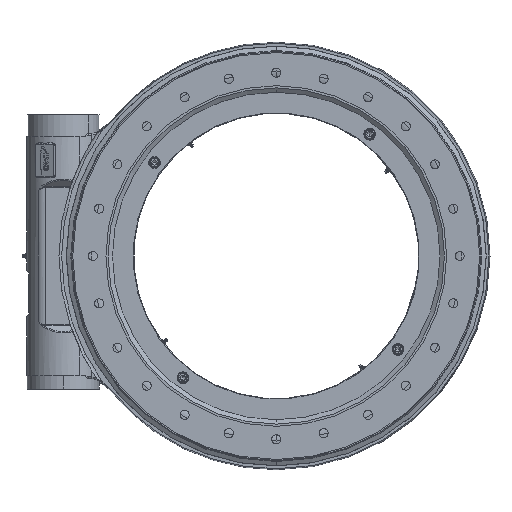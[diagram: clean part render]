
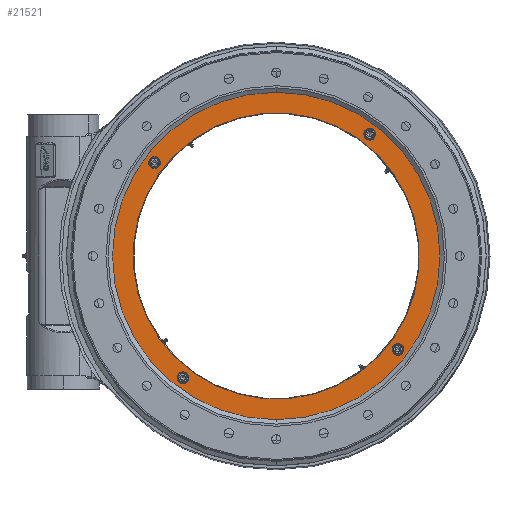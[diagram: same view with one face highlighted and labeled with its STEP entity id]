
A CAD part, front view. The second image highlights one B-rep face of the part: STEP entity #21521.
In plain terms, the highlighted planar face has unit normal (0, -1, 0).
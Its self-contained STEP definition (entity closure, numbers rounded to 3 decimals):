
#9094 = CARTESIAN_POINT ( 'NONE',  ( 224.122, -10., -171.975 ) ) ;
#9095 = DIRECTION ( 'NONE',  ( 0., -1., 0. ) ) ;
#9107 = DIRECTION ( 'NONE',  ( 0.707, 0., -0.707 ) ) ;
#9229 = CARTESIAN_POINT ( 'NONE',  ( -224.122, -10., 171.975 ) ) ;
#9235 = DIRECTION ( 'NONE',  ( 0., -1., 0. ) ) ;
#9236 = DIRECTION ( 'NONE',  ( 0.707, 0., -0.707 ) ) ;
#9340 = CARTESIAN_POINT ( 'NONE',  ( -171.975, -10., -224.122 ) ) ;
#9341 = DIRECTION ( 'NONE',  ( 0., -1., 0. ) ) ;
#9342 = DIRECTION ( 'NONE',  ( 0.707, 0., -0.707 ) ) ;
#9360 = DIRECTION ( 'NONE',  ( 0.707, 0., -0.707 ) ) ;
#9361 = DIRECTION ( 'NONE',  ( 0., -1., 0. ) ) ;
#9369 = CARTESIAN_POINT ( 'NONE',  ( 171.975, -10., 224.122 ) ) ;
#9850 = ORIENTED_EDGE ( 'NONE', *, *, #29216, .T. ) ;
#10680 = DIRECTION ( 'NONE',  ( 0., -1., 0. ) ) ;
#10771 = CARTESIAN_POINT ( 'NONE',  ( -220.264, -10., -220.264 ) ) ;
#10866 = DIRECTION ( 'NONE',  ( 0.707, 0., -0.707 ) ) ;
#11855 = PLANE ( 'NONE',  #37776 ) ;
#13044 = ORIENTED_EDGE ( 'NONE', *, *, #31718, .F. ) ;
#13054 = ORIENTED_EDGE ( 'NONE', *, *, #29161, .F. ) ;
#13060 = ORIENTED_EDGE ( 'NONE', *, *, #31801, .F. ) ;
#13069 = ORIENTED_EDGE ( 'NONE', *, *, #31583, .T. ) ;
#13709 = ORIENTED_EDGE ( 'NONE', *, *, #31760, .F. ) ;
#13726 = ORIENTED_EDGE ( 'NONE', *, *, #29223, .F. ) ;
#13728 = ORIENTED_EDGE ( 'NONE', *, *, #29220, .F. ) ;
#13752 = ORIENTED_EDGE ( 'NONE', *, *, #29178, .F. ) ;
#13753 = ORIENTED_EDGE ( 'NONE', *, *, #29228, .T. ) ;
#13780 = ORIENTED_EDGE ( 'NONE', *, *, #29226, .T. ) ;
#13783 = ORIENTED_EDGE ( 'NONE', *, *, #31677, .F. ) ;
#15569 = FACE_BOUND ( 'NONE', #31806, .T. ) ;
#15571 = FACE_OUTER_BOUND ( 'NONE', #31871, .T. ) ;
#15576 = FACE_BOUND ( 'NONE', #31729, .T. ) ;
#15577 = FACE_BOUND ( 'NONE', #31808, .T. ) ;
#15579 = FACE_BOUND ( 'NONE', #31845, .T. ) ;
#15581 = FACE_BOUND ( 'NONE', #31848, .T. ) ;
#17294 = DIRECTION ( 'NONE',  ( 0.707, 0., -0.707 ) ) ;
#17297 = DIRECTION ( 'NONE',  ( 0., -1., 0. ) ) ;
#17303 = CARTESIAN_POINT ( 'NONE',  ( -224.122, -10., 171.975 ) ) ;
#18904 = CARTESIAN_POINT ( 'NONE',  ( 219.557, -10., -219.557 ) ) ;
#18929 = CARTESIAN_POINT ( 'NONE',  ( -219.557, -10., 219.557 ) ) ;
#19325 = CARTESIAN_POINT ( 'NONE',  ( 216.521, -10., -164.374 ) ) ;
#19356 = CARTESIAN_POINT ( 'NONE',  ( 231.724, -10., -179.577 ) ) ;
#19476 = CARTESIAN_POINT ( 'NONE',  ( -216.521, -10., 164.374 ) ) ;
#19478 = CARTESIAN_POINT ( 'NONE',  ( -231.724, -10., 179.577 ) ) ;
#19479 = CARTESIAN_POINT ( 'NONE',  ( 164.374, -10., 231.724 ) ) ;
#19481 = CARTESIAN_POINT ( 'NONE',  ( 179.577, -10., 216.521 ) ) ;
#19485 = CARTESIAN_POINT ( 'NONE',  ( -186.323, -10., 186.323 ) ) ;
#19486 = CARTESIAN_POINT ( 'NONE',  ( 186.323, -10., -186.323 ) ) ;
#19501 = CARTESIAN_POINT ( 'NONE',  ( -179.577, -10., -216.521 ) ) ;
#19506 = CARTESIAN_POINT ( 'NONE',  ( -164.374, -10., -231.724 ) ) ;
#19572 = AXIS2_PLACEMENT_3D ( 'NONE', #17303, #17297, #17294 ) ;
#19596 = AXIS2_PLACEMENT_3D ( 'NONE', #32580, #32583, #32582 ) ;
#19646 = AXIS2_PLACEMENT_3D ( 'NONE', #32822, #32672, #32673 ) ;
#19649 = AXIS2_PLACEMENT_3D ( 'NONE', #32847, #32844, #32843 ) ;
#19659 = AXIS2_PLACEMENT_3D ( 'NONE', #32823, #32308, #32305 ) ;
#19661 = AXIS2_PLACEMENT_3D ( 'NONE', #32277, #32275, #32282 ) ;
#19664 = AXIS2_PLACEMENT_3D ( 'NONE', #32289, #32290, #32286 ) ;
#20223 = AXIS2_PLACEMENT_3D ( 'NONE', #9229, #9235, #9236 ) ;
#20270 = AXIS2_PLACEMENT_3D ( 'NONE', #9340, #9341, #9342 ) ;
#20306 = AXIS2_PLACEMENT_3D ( 'NONE', #9369, #9361, #9360 ) ;
#20359 = AXIS2_PLACEMENT_3D ( 'NONE', #23767, #23769, #23775 ) ;
#20409 = AXIS2_PLACEMENT_3D ( 'NONE', #9094, #9095, #9107 ) ;
#21521 = ADVANCED_FACE ( 'NONE', ( #15569, #15577, #15579, #15581, #15571, #15576 ), #11855, .T. ) ;
#22035 = CIRCLE ( 'NONE', #19572, 10.75 ) ;
#22053 = CIRCLE ( 'NONE', #19596, 10.75 ) ;
#22094 = CIRCLE ( 'NONE', #19649, 263.5 ) ;
#22098 = CIRCLE ( 'NONE', #19646, 10.75 ) ;
#22104 = CIRCLE ( 'NONE', #19659, 10.75 ) ;
#22109 = CIRCLE ( 'NONE', #19661, 310.5 ) ;
#22113 = CIRCLE ( 'NONE', #19664, 310.5 ) ;
#23767 = CARTESIAN_POINT ( 'NONE',  ( 0., -10., 0. ) ) ;
#23769 = DIRECTION ( 'NONE',  ( 0., 1., 0. ) ) ;
#23775 = DIRECTION ( 'NONE',  ( 0.707, 0., -0.707 ) ) ;
#25742 = VERTEX_POINT ( 'NONE', #18904 ) ;
#25746 = VERTEX_POINT ( 'NONE', #18929 ) ;
#26109 = VERTEX_POINT ( 'NONE', #19325 ) ;
#26140 = VERTEX_POINT ( 'NONE', #19356 ) ;
#26260 = VERTEX_POINT ( 'NONE', #19476 ) ;
#26262 = VERTEX_POINT ( 'NONE', #19478 ) ;
#26263 = VERTEX_POINT ( 'NONE', #19479 ) ;
#26265 = VERTEX_POINT ( 'NONE', #19481 ) ;
#26269 = VERTEX_POINT ( 'NONE', #19485 ) ;
#26270 = VERTEX_POINT ( 'NONE', #19486 ) ;
#26284 = VERTEX_POINT ( 'NONE', #19501 ) ;
#26287 = VERTEX_POINT ( 'NONE', #19506 ) ;
#29161 = EDGE_CURVE ( 'NONE', #26260, #26262, #22035, .T. ) ;
#29178 = EDGE_CURVE ( 'NONE', #26140, #26109, #22053, .T. ) ;
#29216 = EDGE_CURVE ( 'NONE', #26269, #26270, #22094, .T. ) ;
#29220 = EDGE_CURVE ( 'NONE', #26265, #26263, #22098, .T. ) ;
#29223 = EDGE_CURVE ( 'NONE', #26287, #26284, #22104, .T. ) ;
#29226 = EDGE_CURVE ( 'NONE', #25742, #25746, #22113, .T. ) ;
#29228 = EDGE_CURVE ( 'NONE', #25746, #25742, #22109, .T. ) ;
#31583 = EDGE_CURVE ( 'NONE', #26270, #26269, #36217, .T. ) ;
#31677 = EDGE_CURVE ( 'NONE', #26109, #26140, #36096, .T. ) ;
#31718 = EDGE_CURVE ( 'NONE', #26262, #26260, #36685, .T. ) ;
#31729 = EDGE_LOOP ( 'NONE', ( #13069, #9850 ) ) ;
#31760 = EDGE_CURVE ( 'NONE', #26284, #26287, #37328, .T. ) ;
#31801 = EDGE_CURVE ( 'NONE', #26263, #26265, #36880, .T. ) ;
#31806 = EDGE_LOOP ( 'NONE', ( #13054, #13044 ) ) ;
#31808 = EDGE_LOOP ( 'NONE', ( #13728, #13060 ) ) ;
#31845 = EDGE_LOOP ( 'NONE', ( #13752, #13783 ) ) ;
#31848 = EDGE_LOOP ( 'NONE', ( #13726, #13709 ) ) ;
#31871 = EDGE_LOOP ( 'NONE', ( #13780, #13753 ) ) ;
#32275 = DIRECTION ( 'NONE',  ( 0., -1., 0. ) ) ;
#32277 = CARTESIAN_POINT ( 'NONE',  ( 0., -10., 0. ) ) ;
#32282 = DIRECTION ( 'NONE',  ( 0.707, 0., -0.707 ) ) ;
#32286 = DIRECTION ( 'NONE',  ( 0.707, 0., -0.707 ) ) ;
#32289 = CARTESIAN_POINT ( 'NONE',  ( 0., -10., 0. ) ) ;
#32290 = DIRECTION ( 'NONE',  ( 0., -1., 0. ) ) ;
#32305 = DIRECTION ( 'NONE',  ( 0.707, 0., -0.707 ) ) ;
#32308 = DIRECTION ( 'NONE',  ( 0., -1., 0. ) ) ;
#32580 = CARTESIAN_POINT ( 'NONE',  ( 224.122, -10., -171.975 ) ) ;
#32582 = DIRECTION ( 'NONE',  ( 0.707, 0., -0.707 ) ) ;
#32583 = DIRECTION ( 'NONE',  ( 0., -1., 0. ) ) ;
#32672 = DIRECTION ( 'NONE',  ( 0., -1., 0. ) ) ;
#32673 = DIRECTION ( 'NONE',  ( 0.707, 0., -0.707 ) ) ;
#32822 = CARTESIAN_POINT ( 'NONE',  ( 171.975, -10., 224.122 ) ) ;
#32823 = CARTESIAN_POINT ( 'NONE',  ( -171.975, -10., -224.122 ) ) ;
#32843 = DIRECTION ( 'NONE',  ( 0.707, 0., -0.707 ) ) ;
#32844 = DIRECTION ( 'NONE',  ( 0., 1., 0. ) ) ;
#32847 = CARTESIAN_POINT ( 'NONE',  ( 0., -10., 0. ) ) ;
#36096 = CIRCLE ( 'NONE', #20409, 10.75 ) ;
#36217 = CIRCLE ( 'NONE', #20359, 263.5 ) ;
#36685 = CIRCLE ( 'NONE', #20223, 10.75 ) ;
#36880 = CIRCLE ( 'NONE', #20306, 10.75 ) ;
#37328 = CIRCLE ( 'NONE', #20270, 10.75 ) ;
#37776 = AXIS2_PLACEMENT_3D ( 'NONE', #10771, #10680, #10866 ) ;
